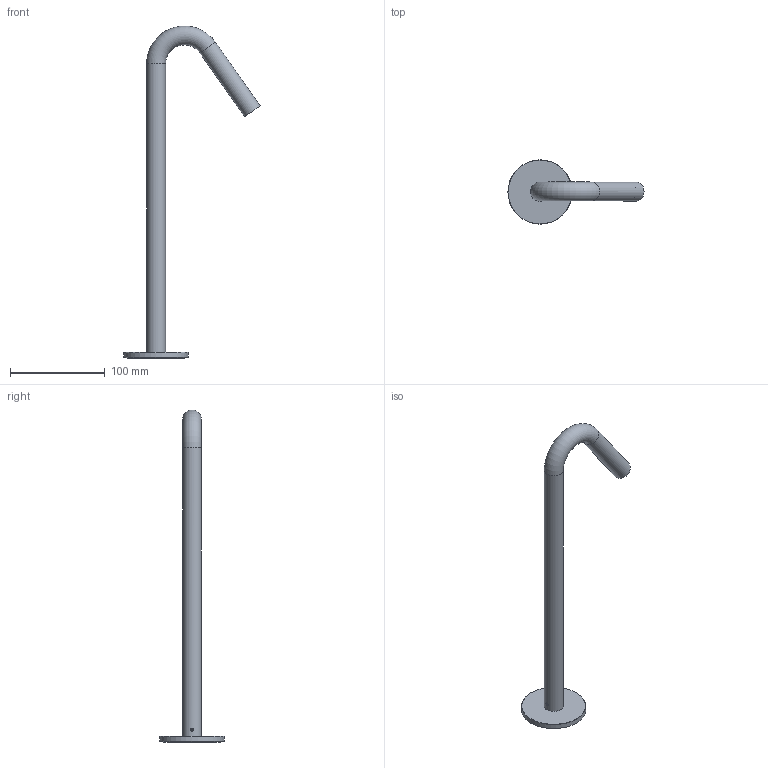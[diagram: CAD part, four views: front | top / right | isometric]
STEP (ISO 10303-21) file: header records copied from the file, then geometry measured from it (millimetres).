
FILE_DESCRIPTION(/* description */ ('Unknown'),/* implementation_level */ '2;1');
FILE_NAME(/* name */ 'RE014H',/* time_stamp */ '2023-06-14T15:18:37+02:00',/* author */ ('Unknown'),/* organization */ ('Unknown'),/* preprocessor_version */ 'ST-DEVELOPER v18.102',/* originating_system */ 'Solid Edge',/* authorisation */ 'Unknown');
FILE_SCHEMA (('AUTOMOTIVE_DESIGN {1 0 10303 214 3 1 1}'));
Length unit declared in the file: millimetre
Products named in the file (12): RE014H; RE004H-001_oa_0; RE004H-01; RE013-03; OR-12.42x1.78; GRP-4x3; 44.3256.450; 44.3256.450-1; 44.3256.450-2; 44.3256.450-3; 44.3256.450-4; G-61-56-2
Assembly tree (12 placements, depth 4):
  RE014H
    RE004H-001_oa_0
      RE004H-01
      RE013-03
      OR-12.42x1.78  x2
      GRP-4x3
      44.3256.450
        44.3256.450-1
        44.3256.450-2
        44.3256.450-3
        44.3256.450-4
      G-61-56-2
Bounding box: 143.91 x 68 x 350.98 mm (x, y, z)
Volume: 80669.4 mm3; surface area: 64244.9 mm2
Topology: 10 solids, 10 shells, 233 faces, 562 edges, 362 vertices
Faces by surface type: plane 129, cone 34, cylinder 33, torus 20, bspline 17
Full cylindrical faces by diameter (mm): 3.242 x1, 11.027 x2, 12.159 x1, 12.196 x1, 12.45 x1, 13.464 x1, 14.577 x1, 15 x2, 15.033 x1, 15.218 x1, 15.229 x1, 15.417 x2, 16 x1, 16.3 x1, 16.5 x2, 16.75 x1, 16.917 x1, 18 x1, 20 x2, 56 x1, 61 x1, 62.7 x1, 68 x1
Entity records: 8182 total; most frequent: CARTESIAN_POINT 1583, DIRECTION 1048, ORIENTED_EDGE 926, EDGE_CURVE 463, AXIS2_PLACEMENT_3D 402, VERTEX_POINT 343, FACE_BOUND 334, EDGE_LOOP 330
